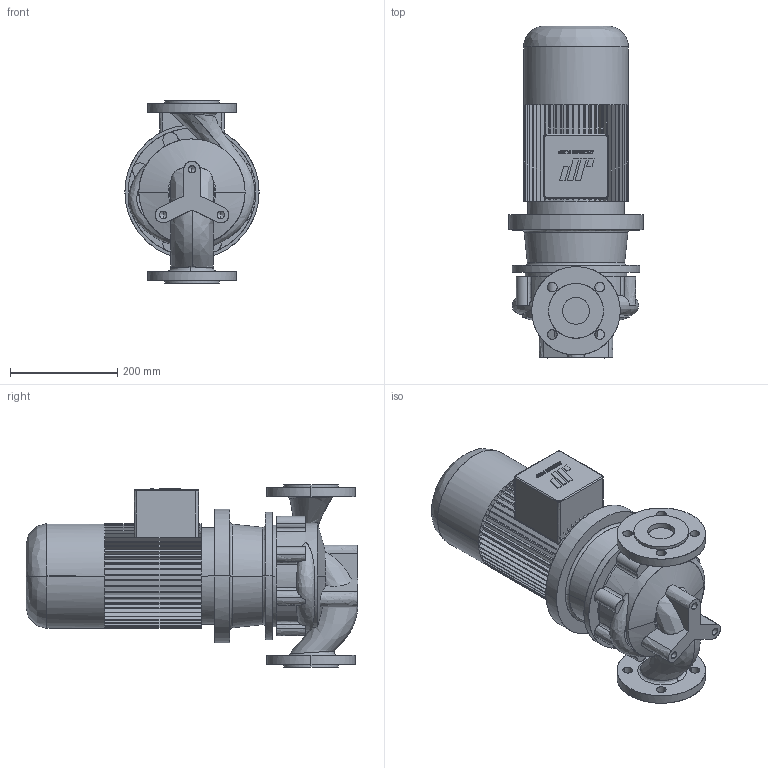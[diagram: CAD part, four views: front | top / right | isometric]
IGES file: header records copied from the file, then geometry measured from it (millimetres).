
Start section: CombiLine
Global section: file name: CLB_50-160_IEC100L_ND10.igs; native system:  By UGS Corp.; preprocessor: XPlus GENERIC/IGES 3.0; author: Stageplaats; organization: Johnson Pump Water B.V.; date: 20070716.114531; units: millimetre
Bounding box: 250 x 618.5 x 340 mm (x, y, z)
Surface area: 849634.5 mm2 (no closed solid volume)
Topology: 0 solids, 0 shells, 669 faces, 3848 edges, 3842 vertices
Faces by surface type: bspline 669
